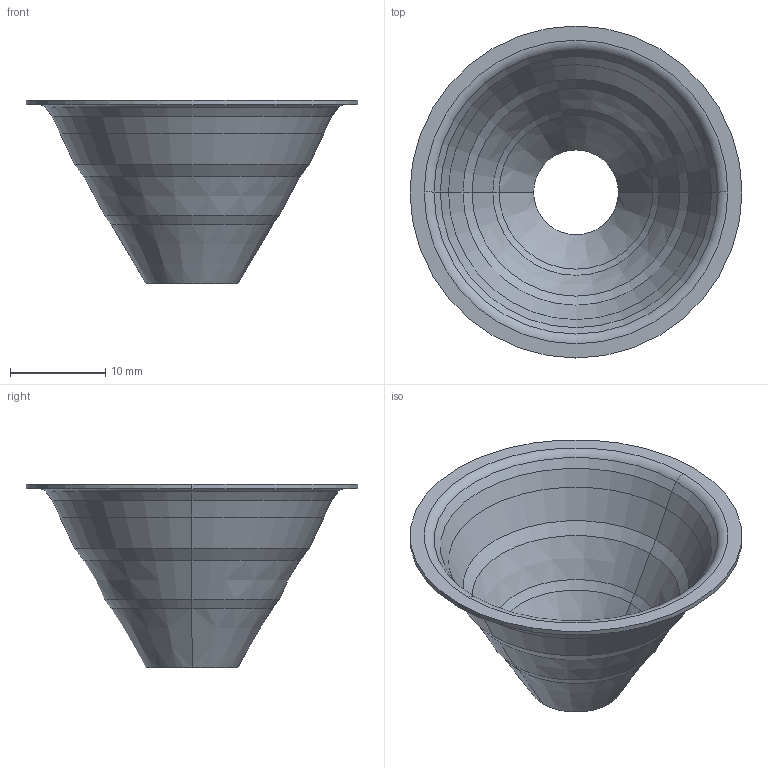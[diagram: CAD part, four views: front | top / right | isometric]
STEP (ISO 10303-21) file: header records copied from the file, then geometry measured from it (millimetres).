
FILE_DESCRIPTION (( 'STEP AP214' ), '1' );
FILE_NAME ('72719A.STEP', '2025-06-17T19:20:25', ( '' ), ( '' ), 'SwSTEP 2.0', 'SolidWorks 2024', '' );
FILE_SCHEMA (( 'AUTOMOTIVE_DESIGN' ));
Length unit declared in the file: inch
Products named in the file (1): 72719A
Bounding box: 34.92 x 34.92 x 19.33 mm (x, y, z)
Volume: 807.9 mm3; surface area: 3249.6 mm2
Topology: 1 solids, 1 shells, 39 faces, 78 edges, 42 vertices
Faces by surface type: cone 28, cylinder 4, torus 4, plane 3
Entity records: 1029 total; most frequent: DIRECTION 204, CARTESIAN_POINT 160, ORIENTED_EDGE 156, AXIS2_PLACEMENT_3D 86, EDGE_CURVE 78, CIRCLE 46, EDGE_LOOP 42, VERTEX_POINT 42
